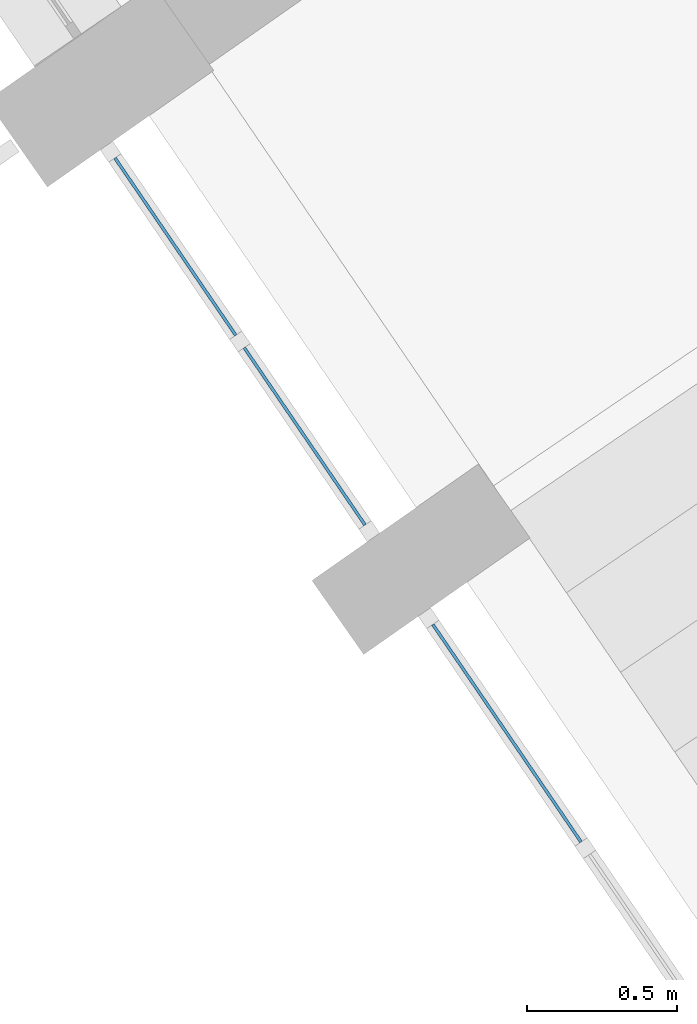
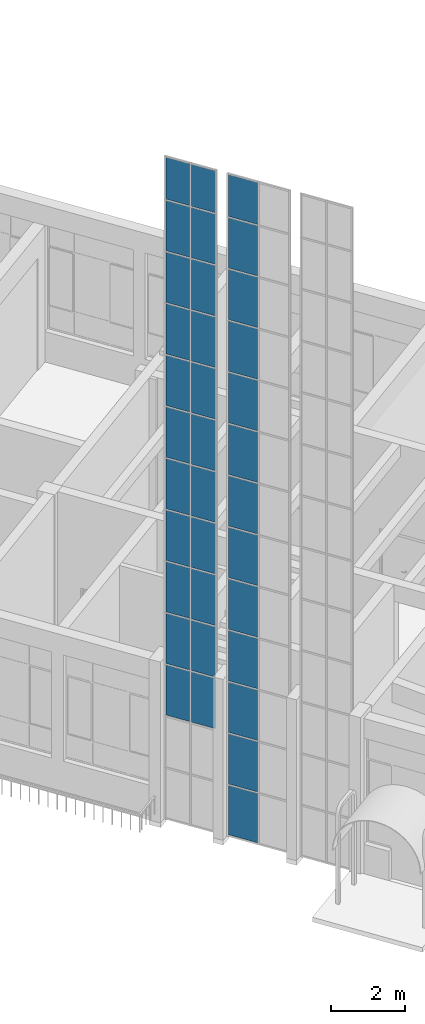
# One storey, part 44 of 157: 35 plates, 2 elements without a shape of their own.
"""IFC2X3 building model written with IfcOpenShell, lengths in millimetres."""

from ifc_helpers import new_model, entity, si_unit, converted_unit, derived_unit, direction, frame, frame_2d, origin, place, context, subcontext, project, spatial, rectangle, extrude, source, transform, mapped, material, type_object, type_shapes, element, aggregate, save


model = new_model("IFC2X3")

# Units and contexts
model_context = context("Model", 3, precision=0.01, world=origin(), true_north=direction((6.123031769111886e-17, 1.0)))
body_context = subcontext(model_context, "Body", "Model", "MODEL_VIEW")
ifc_project = project(units=[si_unit("LENGTHUNIT", "METRE", prefix="MILLI"), si_unit("AREAUNIT", "SQUARE_METRE"), si_unit("VOLUMEUNIT", "CUBIC_METRE"), converted_unit("PLANEANGLEUNIT", "DEGREE", entity("IfcRatioMeasure", 0.017453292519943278), si_unit("PLANEANGLEUNIT", "RADIAN"), dimensions=[0, 0, 0, 0, 0, 0, 0]), si_unit("MASSUNIT", "GRAM", prefix="KILO"), derived_unit("MASSDENSITYUNIT", [(si_unit("MASSUNIT", "GRAM", prefix="KILO"), 1), (si_unit("LENGTHUNIT", "METRE"), -3)]), derived_unit("MOMENTOFINERTIAUNIT", [(si_unit("LENGTHUNIT", "METRE"), 4)]), si_unit("TIMEUNIT", "SECOND"), si_unit("FREQUENCYUNIT", "HERTZ"), si_unit("THERMODYNAMICTEMPERATUREUNIT", "DEGREE_CELSIUS"), derived_unit("THERMALTRANSMITTANCEUNIT", [(si_unit("MASSUNIT", "GRAM", prefix="KILO"), 1), (si_unit("THERMODYNAMICTEMPERATUREUNIT", "KELVIN"), -1), (si_unit("TIMEUNIT", "SECOND"), -3)]), derived_unit("THERMALCONDUCTANCEUNIT", [(si_unit("MASSUNIT", "GRAM", prefix="KILO"), 1), (si_unit("LENGTHUNIT", "METRE"), 1), (si_unit("THERMODYNAMICTEMPERATUREUNIT", "KELVIN"), -1), (si_unit("TIMEUNIT", "SECOND"), -3)]), derived_unit("VOLUMETRICFLOWRATEUNIT", [(si_unit("LENGTHUNIT", "METRE"), 3), (si_unit("TIMEUNIT", "SECOND"), -1)]), derived_unit("MASSFLOWRATEUNIT", [(si_unit("MASSUNIT", "GRAM", prefix="KILO"), 1), (si_unit("TIMEUNIT", "SECOND"), -1)]), derived_unit("ROTATIONALFREQUENCYUNIT", [(si_unit("TIMEUNIT", "SECOND"), -1)]), si_unit("ELECTRICCURRENTUNIT", "AMPERE"), si_unit("ELECTRICVOLTAGEUNIT", "VOLT"), si_unit("POWERUNIT", "WATT"), converted_unit("FORCEUNIT", "KIP", entity("IfcRatioMeasure", 2.088543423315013e-05), si_unit("FORCEUNIT", "NEWTON"), dimensions=[1, 1, -2, 0, 0, 0, 0]), si_unit("ILLUMINANCEUNIT", "LUX"), si_unit("LUMINOUSFLUXUNIT", "LUMEN"), si_unit("LUMINOUSINTENSITYUNIT", "CANDELA"), derived_unit("USERDEFINED", [(si_unit("MASSUNIT", "GRAM", prefix="KILO"), -1), (si_unit("LENGTHUNIT", "METRE"), -2), (si_unit("TIMEUNIT", "SECOND"), 3), (si_unit("LUMINOUSFLUXUNIT", "LUMEN"), 1)]), derived_unit("USERDEFINED", [(si_unit("MASSUNIT", "GRAM", prefix="KILO"), 1), (si_unit("LENGTHUNIT", "METRE"), 3), (si_unit("TIMEUNIT", "SECOND"), -3), (si_unit("ELECTRICCURRENTUNIT", "AMPERE"), -2)]), derived_unit("USERDEFINED", [(si_unit("LENGTHUNIT", "METRE"), 2), (si_unit("TIMEUNIT", "SECOND"), -2)]), derived_unit("SOUNDPOWERUNIT", [(si_unit("MASSUNIT", "GRAM", prefix="KILO"), 1), (si_unit("LENGTHUNIT", "METRE"), 2), (si_unit("TIMEUNIT", "SECOND"), -3)]), derived_unit("SOUNDPRESSUREUNIT", [(si_unit("MASSUNIT", "GRAM", prefix="KILO"), 1), (si_unit("LENGTHUNIT", "METRE"), -1), (si_unit("TIMEUNIT", "SECOND"), -2)]), derived_unit("LINEARVELOCITYUNIT", [(si_unit("LENGTHUNIT", "METRE"), 1), (si_unit("TIMEUNIT", "SECOND"), -1)]), si_unit("PRESSUREUNIT", "PASCAL"), derived_unit("USERDEFINED", [(si_unit("LENGTHUNIT", "METRE"), -2), (si_unit("MASSUNIT", "GRAM", prefix="KILO"), 1), (si_unit("TIMEUNIT", "SECOND"), -2)]), derived_unit("LINEARFORCEUNIT", [(si_unit("MASSUNIT", "GRAM", prefix="KILO"), 1), (si_unit("LENGTHUNIT", "METRE"), 1), (si_unit("TIMEUNIT", "SECOND"), -2), (si_unit("LENGTHUNIT", "METRE"), -1)]), derived_unit("PLANARFORCEUNIT", [(si_unit("MASSUNIT", "GRAM", prefix="KILO"), 1), (si_unit("LENGTHUNIT", "METRE"), 1), (si_unit("TIMEUNIT", "SECOND"), -2), (si_unit("LENGTHUNIT", "METRE"), -2)]), derived_unit("SPECIFICHEATCAPACITYUNIT", [(si_unit("LENGTHUNIT", "METRE"), 2), (si_unit("TIMEUNIT", "SECOND"), -2), (si_unit("THERMODYNAMICTEMPERATUREUNIT", "KELVIN"), -1)]), derived_unit("VAPORPERMEABILITYUNIT", [(si_unit("TIMEUNIT", "SECOND"), 1), (si_unit("LENGTHUNIT", "METRE"), -1)]), derived_unit("DYNAMICVISCOSITYUNIT", [(si_unit("MASSUNIT", "GRAM", prefix="KILO"), 1), (si_unit("LENGTHUNIT", "METRE"), -1), (si_unit("TIMEUNIT", "SECOND"), -1)]), derived_unit("THERMALEXPANSIONCOEFFICIENTUNIT", [(si_unit("THERMODYNAMICTEMPERATUREUNIT", "KELVIN"), -1)])], contexts=[model_context])

# Site, building, storey
site_placement = place(None, frame((0.0, 0.0, 0.0), z_axis=(0.0, 0.0, 1.0), x_axis=(0.8191520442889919, 0.5735764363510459, 0.0)))
site = spatial("IfcSite", under=ifc_project, at=site_placement, Name="Default", CompositionType="ELEMENT")
building_placement = place(site_placement, origin())
building = spatial("IfcBuilding", under=site, at=building_placement, CompositionType="ELEMENT")
storey_placement = place(building_placement, origin())
storey = spatial("IfcBuildingStorey", under=building, at=storey_placement, Name="1.EG +0.00", CompositionType="ELEMENT", Elevation=-4.331468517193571e-12)

# Curtain wall, plates
curtain_wall_type_1 = type_object("IfcCurtainWallType", Name="Curtain Wall:Curtain_Wall_CJC 2", PredefinedType="NOTDEFINED")
curtain_wall_1_placement = place(storey_placement, origin())
curtain_wall_1 = element("IfcCurtainWall", 1, at=curtain_wall_1_placement, inside=storey, type_object=curtain_wall_type_1, Name="Curtain Wall:Curtain_Wall_CJC 2", ObjectType="Curtain Wall:Curtain_Wall_CJC 2")
ifc_material = material(Name="Glass")
plate_type_1 = type_object("IfcPlateType", Name="System Panel:Glazed_CJC", PredefinedType="CURTAIN_PANEL", material=ifc_material)
shared_shape_1 = source(origin(), body_context, "Body", "SweptSolid", [
    extrude(rectangle(XDim=10.0, YDim=875.0769794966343, at=frame_2d((0.0, -2.2168933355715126e-12), x_axis=(1.0, 0.0))), frame((0.0, 0.0, 0.0), z_axis=(0.0, 0.0, 1.0), x_axis=(0.0, 1.0, 0.0)), (0.0, 0.0, 1.0), 1624.9999999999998),
])
type_shapes(plate_type_1, [shared_shape_1])
plate_1_placement = place(curtain_wall_1_placement, frame((-223080.61050407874, 113157.7329590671, 50.0), z_axis=(0.0, 0.0, 1.0), x_axis=(0.01272958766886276, 0.999918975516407, 0.0)))
plate_1 = element("IfcPlate", 2, at=plate_1_placement, type_object=plate_type_1, material=ifc_material, Name="System Panel:Glazed_CJC", ObjectType="System Panel:Glazed_CJC", context=body_context, shape_type="MappedRepresentation", body=[
    mapped(shared_shape_1, transform((0.0, 0.0, 0.0), scale=1.0)),
])
plate_type_2 = type_object("IfcPlateType", Name="System Panel:Glazed_CJC", PredefinedType="CURTAIN_PANEL", material=ifc_material)
shared_shape_2 = source(origin(), body_context, "Body", "SweptSolid", [
    extrude(rectangle(XDim=10.0, YDim=875.0769794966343, at=frame_2d((0.0, -2.2168933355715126e-12), x_axis=(1.0, 0.0))), frame((0.0, 0.0, 0.0), z_axis=(0.0, 0.0, 1.0), x_axis=(0.0, 1.0, 0.0)), (0.0, 0.0, 1.0), 1650.0000000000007),
])
type_shapes(plate_type_2, [shared_shape_2])
plate_2_placement = place(curtain_wall_1_placement, frame((-223080.61050407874, 113157.7329590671, 1725.0), z_axis=(0.0, 0.0, 1.0), x_axis=(0.01272958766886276, 0.999918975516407, 0.0)))
plate_2 = element("IfcPlate", 3, at=plate_2_placement, type_object=plate_type_2, material=ifc_material, Name="System Panel:Glazed_CJC", ObjectType="System Panel:Glazed_CJC", context=body_context, shape_type="MappedRepresentation", body=[
    mapped(shared_shape_2, transform((0.0, 0.0, 0.0), scale=1.0)),
])
plate_3_placement = place(curtain_wall_1_placement, frame((-223080.61050407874, 113157.7329590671, 3425.0), z_axis=(0.0, 0.0, 1.0), x_axis=(0.01272958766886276, 0.999918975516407, 0.0)))
plate_3 = element("IfcPlate", 4, at=plate_3_placement, type_object=plate_type_2, material=ifc_material, Name="System Panel:Glazed_CJC", ObjectType="System Panel:Glazed_CJC", context=body_context, shape_type="MappedRepresentation", body=[
    mapped(shared_shape_2, transform((0.0, 0.0, 0.0), scale=1.0)),
])
plate_4_placement = place(curtain_wall_1_placement, frame((-223080.61050407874, 113157.7329590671, 5125.0), z_axis=(0.0, 0.0, 1.0), x_axis=(0.01272958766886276, 0.999918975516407, 0.0)))
plate_4 = element("IfcPlate", 5, at=plate_4_placement, type_object=plate_type_2, material=ifc_material, Name="System Panel:Glazed_CJC", ObjectType="System Panel:Glazed_CJC", context=body_context, shape_type="MappedRepresentation", body=[
    mapped(shared_shape_2, transform((0.0, 0.0, 0.0), scale=1.0)),
])
plate_5_placement = place(curtain_wall_1_placement, frame((-223080.61050407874, 113157.7329590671, 6825.0), z_axis=(0.0, 0.0, 1.0), x_axis=(0.01272958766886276, 0.999918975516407, 0.0)))
plate_5 = element("IfcPlate", 6, at=plate_5_placement, type_object=plate_type_2, material=ifc_material, Name="System Panel:Glazed_CJC", ObjectType="System Panel:Glazed_CJC", context=body_context, shape_type="MappedRepresentation", body=[
    mapped(shared_shape_2, transform((0.0, 0.0, 0.0), scale=1.0)),
])
plate_6_placement = place(curtain_wall_1_placement, frame((-223080.61050407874, 113157.7329590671, 8525.0), z_axis=(0.0, 0.0, 1.0), x_axis=(0.01272958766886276, 0.999918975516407, 0.0)))
plate_6 = element("IfcPlate", 7, at=plate_6_placement, type_object=plate_type_2, material=ifc_material, Name="System Panel:Glazed_CJC", ObjectType="System Panel:Glazed_CJC", context=body_context, shape_type="MappedRepresentation", body=[
    mapped(shared_shape_2, transform((0.0, 0.0, 0.0), scale=1.0)),
])
plate_7_placement = place(curtain_wall_1_placement, frame((-223080.61050407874, 113157.7329590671, 10225.0), z_axis=(0.0, 0.0, 1.0), x_axis=(0.01272958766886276, 0.999918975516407, 0.0)))
plate_7 = element("IfcPlate", 8, at=plate_7_placement, type_object=plate_type_2, material=ifc_material, Name="System Panel:Glazed_CJC", ObjectType="System Panel:Glazed_CJC", context=body_context, shape_type="MappedRepresentation", body=[
    mapped(shared_shape_2, transform((0.0, 0.0, 0.0), scale=1.0)),
])
plate_8_placement = place(curtain_wall_1_placement, frame((-223080.61050407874, 113157.7329590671, 11925.0), z_axis=(0.0, 0.0, 1.0), x_axis=(0.01272958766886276, 0.999918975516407, 0.0)))
plate_8 = element("IfcPlate", 9, at=plate_8_placement, type_object=plate_type_2, material=ifc_material, Name="System Panel:Glazed_CJC", ObjectType="System Panel:Glazed_CJC", context=body_context, shape_type="MappedRepresentation", body=[
    mapped(shared_shape_2, transform((0.0, 0.0, 0.0), scale=1.0)),
])
plate_9_placement = place(curtain_wall_1_placement, frame((-223080.61050407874, 113157.7329590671, 13625.0), z_axis=(0.0, 0.0, 1.0), x_axis=(0.01272958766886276, 0.999918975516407, 0.0)))
plate_9 = element("IfcPlate", 10, at=plate_9_placement, type_object=plate_type_2, material=ifc_material, Name="System Panel:Glazed_CJC", ObjectType="System Panel:Glazed_CJC", context=body_context, shape_type="MappedRepresentation", body=[
    mapped(shared_shape_2, transform((0.0, 0.0, 0.0), scale=1.0)),
])
plate_10_placement = place(curtain_wall_1_placement, frame((-223080.61050407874, 113157.7329590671, 15325.0), z_axis=(0.0, 0.0, 1.0), x_axis=(0.01272958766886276, 0.999918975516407, 0.0)))
plate_10 = element("IfcPlate", 11, at=plate_10_placement, type_object=plate_type_2, material=ifc_material, Name="System Panel:Glazed_CJC", ObjectType="System Panel:Glazed_CJC", context=body_context, shape_type="MappedRepresentation", body=[
    mapped(shared_shape_2, transform((0.0, 0.0, 0.0), scale=1.0)),
])
plate_11_placement = place(curtain_wall_1_placement, frame((-223080.61050407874, 113157.7329590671, 17025.0), z_axis=(0.0, 0.0, 1.0), x_axis=(0.01272958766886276, 0.999918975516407, 0.0)))
plate_11 = element("IfcPlate", 12, at=plate_11_placement, type_object=plate_type_2, material=ifc_material, Name="System Panel:Glazed_CJC", ObjectType="System Panel:Glazed_CJC", context=body_context, shape_type="MappedRepresentation", body=[
    mapped(shared_shape_2, transform((0.0, 0.0, 0.0), scale=1.0)),
])
plate_12_placement = place(curtain_wall_1_placement, frame((-223080.61050407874, 113157.7329590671, 18725.0), z_axis=(0.0, 0.0, 1.0), x_axis=(0.01272958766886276, 0.999918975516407, 0.0)))
plate_12 = element("IfcPlate", 13, at=plate_12_placement, type_object=plate_type_2, material=ifc_material, Name="System Panel:Glazed_CJC", ObjectType="System Panel:Glazed_CJC", context=body_context, shape_type="MappedRepresentation", body=[
    mapped(shared_shape_2, transform((0.0, 0.0, 0.0), scale=1.0)),
])
plate_type_3 = type_object("IfcPlateType", Name="System Panel:Glazed_CJC", PredefinedType="CURTAIN_PANEL", material=ifc_material)
shared_shape_3 = source(origin(), body_context, "Body", "SweptSolid", [
    extrude(rectangle(XDim=10.0, YDim=875.0769794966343, at=frame_2d((0.0, -2.2168933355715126e-12), x_axis=(1.0, 0.0))), frame((0.0, 0.0, 0.0), z_axis=(0.0, 0.0, 1.0), x_axis=(0.0, 1.0, 0.0)), (0.0, 0.0, 1.0), 1375.0000000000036),
])
type_shapes(plate_type_3, [shared_shape_3])
plate_13_placement = place(curtain_wall_1_placement, frame((-223080.61050407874, 113157.7329590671, 20425.0), z_axis=(0.0, 0.0, 1.0), x_axis=(0.01272958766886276, 0.999918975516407, 0.0)))
plate_13 = element("IfcPlate", 14, at=plate_13_placement, type_object=plate_type_3, material=ifc_material, Name="System Panel:Glazed_CJC", ObjectType="System Panel:Glazed_CJC", context=body_context, shape_type="MappedRepresentation", body=[
    mapped(shared_shape_3, transform((0.0, 0.0, 0.0), scale=1.0)),
])
aggregate(curtain_wall_1, [plate_1, plate_2, plate_3, plate_4, plate_5, plate_6, plate_7, plate_8, plate_9, plate_10, plate_11, plate_12, plate_13])

curtain_wall_type_2 = type_object("IfcCurtainWallType", Name="Curtain Wall:Curtain_Wall_CJC", PredefinedType="NOTDEFINED")
curtain_wall_2_placement = place(storey_placement, origin())
curtain_wall_2 = element("IfcCurtainWall", 15, at=curtain_wall_2_placement, inside=storey, type_object=curtain_wall_type_2, Name="Curtain Wall:Curtain_Wall_CJC", ObjectType="Curtain Wall:Curtain_Wall_CJC")
plate_type_4 = type_object("IfcPlateType", Name="System Panel:Glazed_CJC", PredefinedType="CURTAIN_PANEL", material=ifc_material)
shared_shape_4 = source(origin(), body_context, "Body", "SweptSolid", [
    extrude(rectangle(XDim=10.0, YDim=713.1273416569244, at=frame_2d((0.0, 1.8474111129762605e-12), x_axis=(1.0, 0.0))), frame((0.0, 0.0, 0.0), z_axis=(0.0, 0.0, 1.0), x_axis=(0.0, 1.0, 0.0)), (0.0, 0.0, 1.0), 1650.0000000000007),
])
type_shapes(plate_type_4, [shared_shape_4])
plate_14_placement = place(curtain_wall_2_placement, frame((-223065.4097664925, 114351.76267547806, 3425.0), z_axis=(0.0, 0.0, 1.0), x_axis=(0.01272958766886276, 0.999918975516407, 0.0)))
plate_14 = element("IfcPlate", 16, at=plate_14_placement, type_object=plate_type_4, material=ifc_material, Name="System Panel:Glazed_CJC", ObjectType="System Panel:Glazed_CJC", context=body_context, shape_type="MappedRepresentation", body=[
    mapped(shared_shape_4, transform((0.0, 0.0, 0.0), scale=1.0)),
])
plate_15_placement = place(curtain_wall_2_placement, frame((-223055.69547009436, 115114.82818513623, 3425.0), z_axis=(0.0, 0.0, 1.0), x_axis=(0.01272958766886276, 0.999918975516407, 0.0)))
plate_15 = element("IfcPlate", 17, at=plate_15_placement, type_object=plate_type_4, material=ifc_material, Name="System Panel:Glazed_CJC", ObjectType="System Panel:Glazed_CJC", context=body_context, shape_type="MappedRepresentation", body=[
    mapped(shared_shape_4, transform((0.0, 0.0, 0.0), scale=1.0)),
])
plate_16_placement = place(curtain_wall_2_placement, frame((-223065.4097664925, 114351.76267547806, 5125.0), z_axis=(0.0, 0.0, 1.0), x_axis=(0.01272958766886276, 0.999918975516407, 0.0)))
plate_16 = element("IfcPlate", 18, at=plate_16_placement, type_object=plate_type_4, material=ifc_material, Name="System Panel:Glazed_CJC", ObjectType="System Panel:Glazed_CJC", context=body_context, shape_type="MappedRepresentation", body=[
    mapped(shared_shape_4, transform((0.0, 0.0, 0.0), scale=1.0)),
])
plate_17_placement = place(curtain_wall_2_placement, frame((-223055.69547009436, 115114.82818513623, 5125.0), z_axis=(0.0, 0.0, 1.0), x_axis=(0.01272958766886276, 0.999918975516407, 0.0)))
plate_17 = element("IfcPlate", 19, at=plate_17_placement, type_object=plate_type_4, material=ifc_material, Name="System Panel:Glazed_CJC", ObjectType="System Panel:Glazed_CJC", context=body_context, shape_type="MappedRepresentation", body=[
    mapped(shared_shape_4, transform((0.0, 0.0, 0.0), scale=1.0)),
])
plate_18_placement = place(curtain_wall_2_placement, frame((-223065.4097664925, 114351.76267547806, 6825.0), z_axis=(0.0, 0.0, 1.0), x_axis=(0.01272958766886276, 0.999918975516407, 0.0)))
plate_18 = element("IfcPlate", 20, at=plate_18_placement, type_object=plate_type_4, material=ifc_material, Name="System Panel:Glazed_CJC", ObjectType="System Panel:Glazed_CJC", context=body_context, shape_type="MappedRepresentation", body=[
    mapped(shared_shape_4, transform((0.0, 0.0, 0.0), scale=1.0)),
])
plate_19_placement = place(curtain_wall_2_placement, frame((-223055.69547009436, 115114.82818513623, 6825.0), z_axis=(0.0, 0.0, 1.0), x_axis=(0.01272958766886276, 0.999918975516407, 0.0)))
plate_19 = element("IfcPlate", 21, at=plate_19_placement, type_object=plate_type_4, material=ifc_material, Name="System Panel:Glazed_CJC", ObjectType="System Panel:Glazed_CJC", context=body_context, shape_type="MappedRepresentation", body=[
    mapped(shared_shape_4, transform((0.0, 0.0, 0.0), scale=1.0)),
])
plate_20_placement = place(curtain_wall_2_placement, frame((-223065.4097664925, 114351.76267547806, 8525.0), z_axis=(0.0, 0.0, 1.0), x_axis=(0.01272958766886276, 0.999918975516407, 0.0)))
plate_20 = element("IfcPlate", 22, at=plate_20_placement, type_object=plate_type_4, material=ifc_material, Name="System Panel:Glazed_CJC", ObjectType="System Panel:Glazed_CJC", context=body_context, shape_type="MappedRepresentation", body=[
    mapped(shared_shape_4, transform((0.0, 0.0, 0.0), scale=1.0)),
])
plate_21_placement = place(curtain_wall_2_placement, frame((-223055.69547009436, 115114.82818513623, 8525.0), z_axis=(0.0, 0.0, 1.0), x_axis=(0.01272958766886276, 0.999918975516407, 0.0)))
plate_21 = element("IfcPlate", 23, at=plate_21_placement, type_object=plate_type_4, material=ifc_material, Name="System Panel:Glazed_CJC", ObjectType="System Panel:Glazed_CJC", context=body_context, shape_type="MappedRepresentation", body=[
    mapped(shared_shape_4, transform((0.0, 0.0, 0.0), scale=1.0)),
])
plate_22_placement = place(curtain_wall_2_placement, frame((-223065.4097664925, 114351.76267547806, 10225.0), z_axis=(0.0, 0.0, 1.0), x_axis=(0.01272958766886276, 0.999918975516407, 0.0)))
plate_22 = element("IfcPlate", 24, at=plate_22_placement, type_object=plate_type_4, material=ifc_material, Name="System Panel:Glazed_CJC", ObjectType="System Panel:Glazed_CJC", context=body_context, shape_type="MappedRepresentation", body=[
    mapped(shared_shape_4, transform((0.0, 0.0, 0.0), scale=1.0)),
])
plate_23_placement = place(curtain_wall_2_placement, frame((-223055.69547009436, 115114.82818513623, 10225.0), z_axis=(0.0, 0.0, 1.0), x_axis=(0.01272958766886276, 0.999918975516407, 0.0)))
plate_23 = element("IfcPlate", 25, at=plate_23_placement, type_object=plate_type_4, material=ifc_material, Name="System Panel:Glazed_CJC", ObjectType="System Panel:Glazed_CJC", context=body_context, shape_type="MappedRepresentation", body=[
    mapped(shared_shape_4, transform((0.0, 0.0, 0.0), scale=1.0)),
])
plate_24_placement = place(curtain_wall_2_placement, frame((-223065.4097664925, 114351.76267547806, 11925.0), z_axis=(0.0, 0.0, 1.0), x_axis=(0.01272958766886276, 0.999918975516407, 0.0)))
plate_24 = element("IfcPlate", 26, at=plate_24_placement, type_object=plate_type_4, material=ifc_material, Name="System Panel:Glazed_CJC", ObjectType="System Panel:Glazed_CJC", context=body_context, shape_type="MappedRepresentation", body=[
    mapped(shared_shape_4, transform((0.0, 0.0, 0.0), scale=1.0)),
])
plate_25_placement = place(curtain_wall_2_placement, frame((-223055.69547009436, 115114.82818513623, 11925.0), z_axis=(0.0, 0.0, 1.0), x_axis=(0.01272958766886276, 0.999918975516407, 0.0)))
plate_25 = element("IfcPlate", 27, at=plate_25_placement, type_object=plate_type_4, material=ifc_material, Name="System Panel:Glazed_CJC", ObjectType="System Panel:Glazed_CJC", context=body_context, shape_type="MappedRepresentation", body=[
    mapped(shared_shape_4, transform((0.0, 0.0, 0.0), scale=1.0)),
])
plate_26_placement = place(curtain_wall_2_placement, frame((-223065.4097664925, 114351.76267547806, 13625.0), z_axis=(0.0, 0.0, 1.0), x_axis=(0.01272958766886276, 0.999918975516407, 0.0)))
plate_26 = element("IfcPlate", 28, at=plate_26_placement, type_object=plate_type_4, material=ifc_material, Name="System Panel:Glazed_CJC", ObjectType="System Panel:Glazed_CJC", context=body_context, shape_type="MappedRepresentation", body=[
    mapped(shared_shape_4, transform((0.0, 0.0, 0.0), scale=1.0)),
])
plate_27_placement = place(curtain_wall_2_placement, frame((-223055.69547009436, 115114.82818513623, 13625.0), z_axis=(0.0, 0.0, 1.0), x_axis=(0.01272958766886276, 0.999918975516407, 0.0)))
plate_27 = element("IfcPlate", 29, at=plate_27_placement, type_object=plate_type_4, material=ifc_material, Name="System Panel:Glazed_CJC", ObjectType="System Panel:Glazed_CJC", context=body_context, shape_type="MappedRepresentation", body=[
    mapped(shared_shape_4, transform((0.0, 0.0, 0.0), scale=1.0)),
])
plate_28_placement = place(curtain_wall_2_placement, frame((-223065.4097664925, 114351.76267547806, 15325.0), z_axis=(0.0, 0.0, 1.0), x_axis=(0.01272958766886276, 0.999918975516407, 0.0)))
plate_28 = element("IfcPlate", 30, at=plate_28_placement, type_object=plate_type_4, material=ifc_material, Name="System Panel:Glazed_CJC", ObjectType="System Panel:Glazed_CJC", context=body_context, shape_type="MappedRepresentation", body=[
    mapped(shared_shape_4, transform((0.0, 0.0, 0.0), scale=1.0)),
])
plate_29_placement = place(curtain_wall_2_placement, frame((-223055.69547009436, 115114.82818513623, 15325.0), z_axis=(0.0, 0.0, 1.0), x_axis=(0.01272958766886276, 0.999918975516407, 0.0)))
plate_29 = element("IfcPlate", 31, at=plate_29_placement, type_object=plate_type_4, material=ifc_material, Name="System Panel:Glazed_CJC", ObjectType="System Panel:Glazed_CJC", context=body_context, shape_type="MappedRepresentation", body=[
    mapped(shared_shape_4, transform((0.0, 0.0, 0.0), scale=1.0)),
])
plate_30_placement = place(curtain_wall_2_placement, frame((-223065.4097664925, 114351.76267547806, 17025.0), z_axis=(0.0, 0.0, 1.0), x_axis=(0.01272958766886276, 0.999918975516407, 0.0)))
plate_30 = element("IfcPlate", 32, at=plate_30_placement, type_object=plate_type_4, material=ifc_material, Name="System Panel:Glazed_CJC", ObjectType="System Panel:Glazed_CJC", context=body_context, shape_type="MappedRepresentation", body=[
    mapped(shared_shape_4, transform((0.0, 0.0, 0.0), scale=1.0)),
])
plate_31_placement = place(curtain_wall_2_placement, frame((-223055.69547009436, 115114.82818513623, 17025.0), z_axis=(0.0, 0.0, 1.0), x_axis=(0.01272958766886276, 0.999918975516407, 0.0)))
plate_31 = element("IfcPlate", 33, at=plate_31_placement, type_object=plate_type_4, material=ifc_material, Name="System Panel:Glazed_CJC", ObjectType="System Panel:Glazed_CJC", context=body_context, shape_type="MappedRepresentation", body=[
    mapped(shared_shape_4, transform((0.0, 0.0, 0.0), scale=1.0)),
])
plate_32_placement = place(curtain_wall_2_placement, frame((-223065.4097664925, 114351.76267547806, 18725.0), z_axis=(0.0, 0.0, 1.0), x_axis=(0.01272958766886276, 0.999918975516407, 0.0)))
plate_32 = element("IfcPlate", 34, at=plate_32_placement, type_object=plate_type_4, material=ifc_material, Name="System Panel:Glazed_CJC", ObjectType="System Panel:Glazed_CJC", context=body_context, shape_type="MappedRepresentation", body=[
    mapped(shared_shape_4, transform((0.0, 0.0, 0.0), scale=1.0)),
])
plate_33_placement = place(curtain_wall_2_placement, frame((-223055.69547009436, 115114.82818513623, 18725.0), z_axis=(0.0, 0.0, 1.0), x_axis=(0.01272958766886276, 0.999918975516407, 0.0)))
plate_33 = element("IfcPlate", 35, at=plate_33_placement, type_object=plate_type_4, material=ifc_material, Name="System Panel:Glazed_CJC", ObjectType="System Panel:Glazed_CJC", context=body_context, shape_type="MappedRepresentation", body=[
    mapped(shared_shape_4, transform((0.0, 0.0, 0.0), scale=1.0)),
])
plate_type_5 = type_object("IfcPlateType", Name="System Panel:Glazed_CJC", PredefinedType="CURTAIN_PANEL", material=ifc_material)
shared_shape_5 = source(origin(), body_context, "Body", "SweptSolid", [
    extrude(rectangle(XDim=10.0, YDim=713.1273416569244, at=frame_2d((0.0, 1.8474111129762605e-12), x_axis=(1.0, 0.0))), frame((0.0, 0.0, 0.0), z_axis=(0.0, 0.0, 1.0), x_axis=(0.0, 1.0, 0.0)), (0.0, 0.0, 1.0), 1375.0000000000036),
])
type_shapes(plate_type_5, [shared_shape_5])
plate_34_placement = place(curtain_wall_2_placement, frame((-223065.4097664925, 114351.76267547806, 20425.0), z_axis=(0.0, 0.0, 1.0), x_axis=(0.01272958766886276, 0.999918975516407, 0.0)))
plate_34 = element("IfcPlate", 36, at=plate_34_placement, type_object=plate_type_5, material=ifc_material, Name="System Panel:Glazed_CJC", ObjectType="System Panel:Glazed_CJC", context=body_context, shape_type="MappedRepresentation", body=[
    mapped(shared_shape_5, transform((0.0, 0.0, 0.0), scale=1.0)),
])
plate_35_placement = place(curtain_wall_2_placement, frame((-223055.69547009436, 115114.82818513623, 20425.0), z_axis=(0.0, 0.0, 1.0), x_axis=(0.01272958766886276, 0.999918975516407, 0.0)))
plate_35 = element("IfcPlate", 37, at=plate_35_placement, type_object=plate_type_5, material=ifc_material, Name="System Panel:Glazed_CJC", ObjectType="System Panel:Glazed_CJC", context=body_context, shape_type="MappedRepresentation", body=[
    mapped(shared_shape_5, transform((0.0, 0.0, 0.0), scale=1.0)),
])
aggregate(curtain_wall_2, [plate_14, plate_15, plate_16, plate_17, plate_18, plate_19, plate_20, plate_21, plate_22, plate_23, plate_24, plate_25, plate_26, plate_27, plate_28, plate_29, plate_30, plate_31, plate_32, plate_33, plate_34, plate_35])

save(model, "model.ifc")
